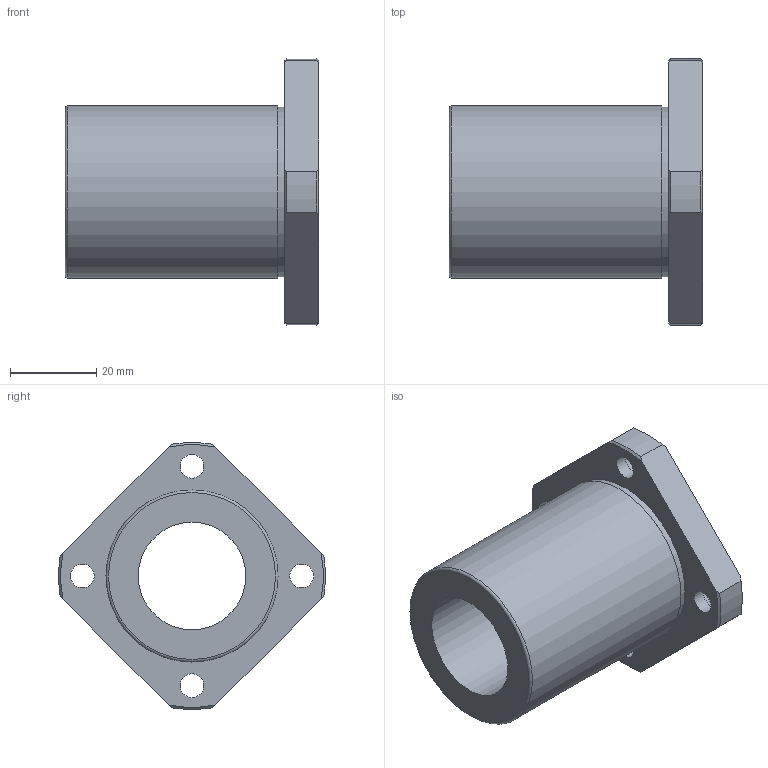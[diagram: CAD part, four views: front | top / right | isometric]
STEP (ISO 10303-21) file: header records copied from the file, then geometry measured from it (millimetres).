
FILE_DESCRIPTION(('STEP AP203'),'1');
FILE_NAME('//192.168.1.1/share/s-4 技術開発/s-4-4_CAD/s-4-4-3_見直し済み/002 修正済み/NF-V/NF-25TVUU.step','2022-03-08T06:41:27',(' '),(' '),'Spatial InterOp 3D',' ',' ');
FILE_SCHEMA(('CONFIG_CONTROL_DESIGN'));
Length unit declared in the file: millimetre
Products named in the file (1): 1
Bounding box: 59 x 61.92 x 61.92 mm (x, y, z)
Volume: 52845 mm3; surface area: 16967.3 mm2
Topology: 1 solids, 1 shells, 36 faces, 89 edges, 61 vertices
Faces by surface type: cylinder 15, plane 12, cone 8, torus 1
Full cylindrical faces by diameter (mm): 5.5 x4, 9 x4, 25 x1, 39.5 x1, 40 x1
Entity records: 1026 total; most frequent: CARTESIAN_POINT 195, DIRECTION 168, ORIENTED_EDGE 142, AXIS2_PLACEMENT_3D 76, EDGE_CURVE 71, EDGE_LOOP 64, VERTEX_POINT 55, FACE_OUTER_BOUND 48
